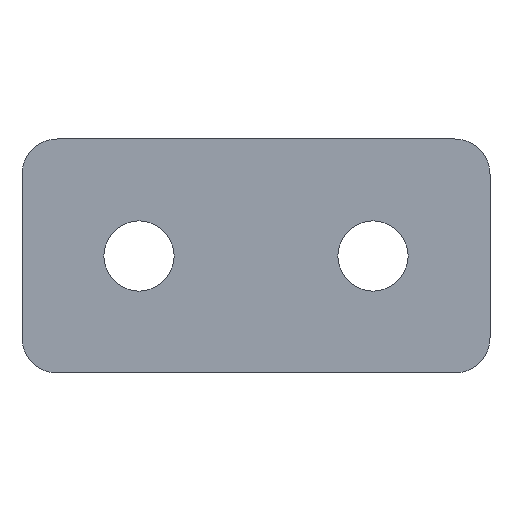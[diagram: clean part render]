
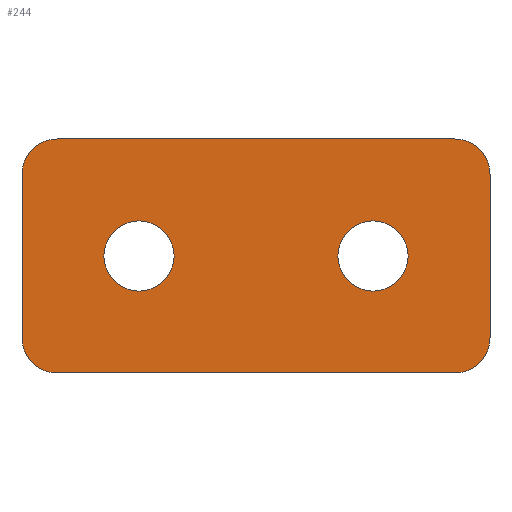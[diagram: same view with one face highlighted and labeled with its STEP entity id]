
A CAD part, front view. The second image highlights one B-rep face of the part: STEP entity #244.
In plain terms, the highlighted planar face has unit normal (0, -1, 0).
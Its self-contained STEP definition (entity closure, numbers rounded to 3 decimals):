
#1=CARTESIAN_POINT('',(-10.,0.,0.));
#2=DIRECTION('',(0.,-1.,0.));
#3=DIRECTION('',(1.,0.,0.));
#4=AXIS2_PLACEMENT_3D('',#1,#2,#3);
#6=CARTESIAN_POINT('',(-10.,0.,0.));
#7=DIRECTION('',(0.,-1.,0.));
#8=DIRECTION('',(-1.,0.,0.));
#9=AXIS2_PLACEMENT_3D('',#6,#7,#8);
#11=CARTESIAN_POINT('',(10.,0.,0.));
#12=DIRECTION('',(0.,-1.,0.));
#13=DIRECTION('',(1.,0.,0.));
#14=AXIS2_PLACEMENT_3D('',#11,#12,#13);
#16=CARTESIAN_POINT('',(10.,0.,0.));
#17=DIRECTION('',(0.,-1.,0.));
#18=DIRECTION('',(-1.,0.,0.));
#19=AXIS2_PLACEMENT_3D('',#16,#17,#18);
#21=CARTESIAN_POINT('',(-17.,0.,-7.));
#22=DIRECTION('',(0.,-1.,0.));
#23=DIRECTION('',(-1.,0.,0.));
#24=AXIS2_PLACEMENT_3D('',#21,#22,#23);
#26=DIRECTION('',(0.,0.,1.));
#27=VECTOR('',#26,14.);
#28=CARTESIAN_POINT('',(-20.,0.,-7.));
#29=LINE('',#28,#27);
#30=CARTESIAN_POINT('',(-17.,0.,7.));
#31=DIRECTION('',(0.,-1.,0.));
#32=DIRECTION('',(0.,0.,1.));
#33=AXIS2_PLACEMENT_3D('',#30,#31,#32);
#35=DIRECTION('',(1.,0.,0.));
#36=VECTOR('',#35,34.);
#37=CARTESIAN_POINT('',(-17.,0.,10.));
#38=LINE('',#37,#36);
#39=CARTESIAN_POINT('',(17.,0.,7.));
#40=DIRECTION('',(0.,-1.,0.));
#41=DIRECTION('',(1.,0.,0.));
#42=AXIS2_PLACEMENT_3D('',#39,#40,#41);
#44=DIRECTION('',(0.,0.,-1.));
#45=VECTOR('',#44,14.);
#46=CARTESIAN_POINT('',(20.,0.,7.));
#47=LINE('',#46,#45);
#48=CARTESIAN_POINT('',(17.,0.,-7.));
#49=DIRECTION('',(0.,-1.,0.));
#50=DIRECTION('',(0.,0.,-1.));
#51=AXIS2_PLACEMENT_3D('',#48,#49,#50);
#53=DIRECTION('',(-1.,0.,0.));
#54=VECTOR('',#53,34.);
#55=CARTESIAN_POINT('',(17.,0.,-10.));
#56=LINE('',#55,#54);
#161=CARTESIAN_POINT('',(-7.,0.,0.));
#162=CARTESIAN_POINT('',(-13.,0.,0.));
#163=VERTEX_POINT('',#161);
#164=VERTEX_POINT('',#162);
#165=CARTESIAN_POINT('',(13.,0.,0.));
#166=CARTESIAN_POINT('',(7.,0.,0.));
#167=VERTEX_POINT('',#165);
#168=VERTEX_POINT('',#166);
#177=CARTESIAN_POINT('',(-20.,0.,-7.));
#178=CARTESIAN_POINT('',(-17.,0.,-10.));
#179=VERTEX_POINT('',#177);
#180=VERTEX_POINT('',#178);
#185=CARTESIAN_POINT('',(-17.,0.,10.));
#186=CARTESIAN_POINT('',(-20.,0.,7.));
#187=VERTEX_POINT('',#185);
#188=VERTEX_POINT('',#186);
#193=CARTESIAN_POINT('',(20.,0.,7.));
#194=CARTESIAN_POINT('',(17.,0.,10.));
#195=VERTEX_POINT('',#193);
#196=VERTEX_POINT('',#194);
#201=CARTESIAN_POINT('',(17.,0.,-10.));
#202=CARTESIAN_POINT('',(20.,0.,-7.));
#203=VERTEX_POINT('',#201);
#204=VERTEX_POINT('',#202);
#209=CARTESIAN_POINT('',(0.,0.,0.));
#210=DIRECTION('',(0.,1.,0.));
#211=DIRECTION('',(1.,0.,0.));
#212=AXIS2_PLACEMENT_3D('',#209,#210,#211);
#213=PLANE('',#212);
#215=ORIENTED_EDGE('',*,*,#214,.F.);
#217=ORIENTED_EDGE('',*,*,#216,.T.);
#219=ORIENTED_EDGE('',*,*,#218,.F.);
#221=ORIENTED_EDGE('',*,*,#220,.T.);
#223=ORIENTED_EDGE('',*,*,#222,.F.);
#225=ORIENTED_EDGE('',*,*,#224,.T.);
#227=ORIENTED_EDGE('',*,*,#226,.F.);
#229=ORIENTED_EDGE('',*,*,#228,.T.);
#230=EDGE_LOOP('',(#215,#217,#219,#221,#223,#225,#227,#229));
#231=FACE_OUTER_BOUND('',#230,.F.);
#233=ORIENTED_EDGE('',*,*,#232,.T.);
#235=ORIENTED_EDGE('',*,*,#234,.T.);
#236=EDGE_LOOP('',(#233,#235));
#237=FACE_BOUND('',#236,.F.);
#239=ORIENTED_EDGE('',*,*,#238,.T.);
#241=ORIENTED_EDGE('',*,*,#240,.T.);
#242=EDGE_LOOP('',(#239,#241));
#243=FACE_BOUND('',#242,.F.);
#244=ADVANCED_FACE('',(#231,#237,#243),#213,.F.);
#5=CIRCLE('',#4,3.);
#10=CIRCLE('',#9,3.);
#15=CIRCLE('',#14,3.);
#20=CIRCLE('',#19,3.);
#25=CIRCLE('',#24,3.);
#34=CIRCLE('',#33,3.);
#43=CIRCLE('',#42,3.);
#52=CIRCLE('',#51,3.);
#214=EDGE_CURVE('',#179,#180,#25,.T.);
#216=EDGE_CURVE('',#179,#188,#29,.T.);
#218=EDGE_CURVE('',#187,#188,#34,.T.);
#220=EDGE_CURVE('',#187,#196,#38,.T.);
#222=EDGE_CURVE('',#195,#196,#43,.T.);
#224=EDGE_CURVE('',#195,#204,#47,.T.);
#226=EDGE_CURVE('',#203,#204,#52,.T.);
#228=EDGE_CURVE('',#203,#180,#56,.T.);
#232=EDGE_CURVE('',#167,#168,#15,.T.);
#234=EDGE_CURVE('',#168,#167,#20,.T.);
#238=EDGE_CURVE('',#163,#164,#5,.T.);
#240=EDGE_CURVE('',#164,#163,#10,.T.);
